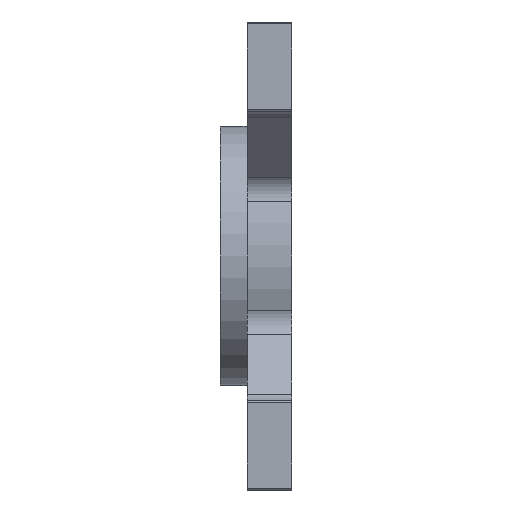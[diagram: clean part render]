
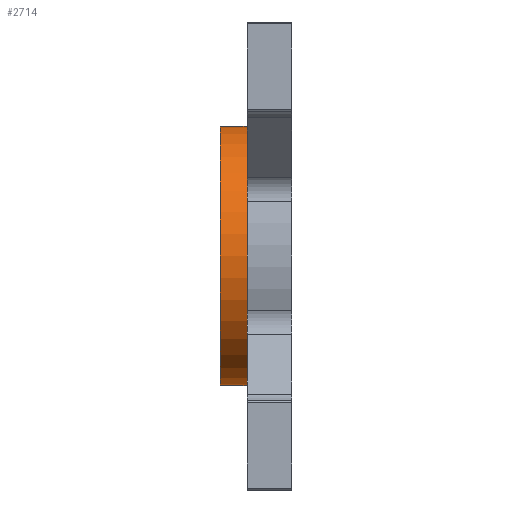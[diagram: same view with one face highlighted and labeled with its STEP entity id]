
A CAD part, left-side view. The second image highlights one B-rep face of the part: STEP entity #2714.
In plain terms, the highlighted cylindrical face has radius 9.207 mm (diameter 18.415 mm), a partial arc.
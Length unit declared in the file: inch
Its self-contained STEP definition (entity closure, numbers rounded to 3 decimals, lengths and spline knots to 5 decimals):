
#61 = VERTEX_POINT ( 'NONE', #4339 ) ;
#158 = VERTEX_POINT ( 'NONE', #1152 ) ;
#549 = CARTESIAN_POINT ( 'NONE',  ( 0., 0.125, 0. ) ) ;
#736 = CARTESIAN_POINT ( 'NONE',  ( 0., 0.2, 0.3625 ) ) ;
#923 = DIRECTION ( 'NONE',  ( 0., 0., -1. ) ) ;
#926 = DIRECTION ( 'NONE',  ( 0., 0., 1. ) ) ;
#1152 = CARTESIAN_POINT ( 'NONE',  ( 0., 0.2, -0.3625 ) ) ;
#1222 = CARTESIAN_POINT ( 'NONE',  ( 0., 0.125, -0.3625 ) ) ;
#1336 = AXIS2_PLACEMENT_3D ( 'NONE', #2087, #4322, #923 ) ;
#1414 = EDGE_CURVE ( 'NONE', #2372, #61, #4698, .T. ) ;
#1861 = ORIENTED_EDGE ( 'NONE', *, *, #3362, .T. ) ;
#1965 = AXIS2_PLACEMENT_3D ( 'NONE', #4079, #4780, #2209 ) ;
#1970 = ORIENTED_EDGE ( 'NONE', *, *, #4615, .F. ) ;
#1991 = EDGE_LOOP ( 'NONE', ( #3493, #1970, #1861, #2453 ) ) ;
#2087 = CARTESIAN_POINT ( 'NONE',  ( 0., 0.2, 0. ) ) ;
#2177 = VECTOR ( 'NONE', #2989, 39.37008 ) ;
#2209 = DIRECTION ( 'NONE',  ( 0., 0., 1. ) ) ;
#2372 = VERTEX_POINT ( 'NONE', #3582 ) ;
#2453 = ORIENTED_EDGE ( 'NONE', *, *, #3035, .T. ) ;
#2714 = ADVANCED_FACE ( 'NONE', ( #3766 ), #3282, .T. ) ;
#2769 = CIRCLE ( 'NONE', #4103, 0.3625 ) ;
#2815 = DIRECTION ( 'NONE',  ( 0., 1., 0. ) ) ;
#2922 = VERTEX_POINT ( 'NONE', #1222 ) ;
#2989 = DIRECTION ( 'NONE',  ( 0., -1., 0. ) ) ;
#3035 = EDGE_CURVE ( 'NONE', #2922, #61, #2769, .T. ) ;
#3282 = CYLINDRICAL_SURFACE ( 'NONE', #1336, 0.3625 ) ;
#3348 = LINE ( 'NONE', #4796, #2177 ) ;
#3362 = EDGE_CURVE ( 'NONE', #158, #2922, #3348, .T. ) ;
#3493 = ORIENTED_EDGE ( 'NONE', *, *, #1414, .F. ) ;
#3582 = CARTESIAN_POINT ( 'NONE',  ( 0., 0.2, 0.3625 ) ) ;
#3704 = VECTOR ( 'NONE', #3969, 39.37008 ) ;
#3766 = FACE_OUTER_BOUND ( 'NONE', #1991, .T. ) ;
#3969 = DIRECTION ( 'NONE',  ( 0., -1., 0. ) ) ;
#4079 = CARTESIAN_POINT ( 'NONE',  ( 0., 0.2, 0. ) ) ;
#4103 = AXIS2_PLACEMENT_3D ( 'NONE', #549, #2815, #926 ) ;
#4322 = DIRECTION ( 'NONE',  ( 0., -1., 0. ) ) ;
#4339 = CARTESIAN_POINT ( 'NONE',  ( 0., 0.125, 0.3625 ) ) ;
#4615 = EDGE_CURVE ( 'NONE', #158, #2372, #4694, .T. ) ;
#4694 = CIRCLE ( 'NONE', #1965, 0.3625 ) ;
#4698 = LINE ( 'NONE', #736, #3704 ) ;
#4780 = DIRECTION ( 'NONE',  ( 0., 1., 0. ) ) ;
#4796 = CARTESIAN_POINT ( 'NONE',  ( 0., 0.2, -0.3625 ) ) ;
